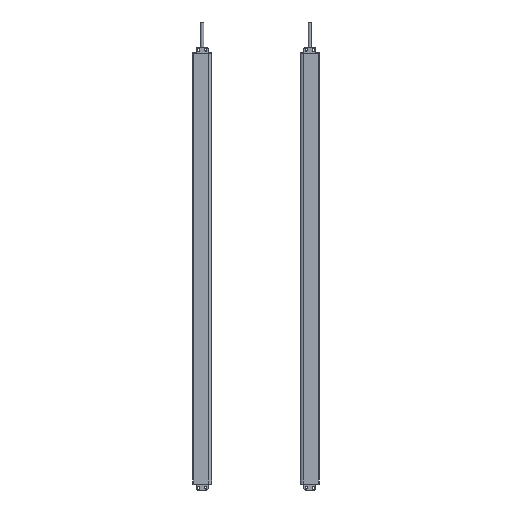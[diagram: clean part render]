
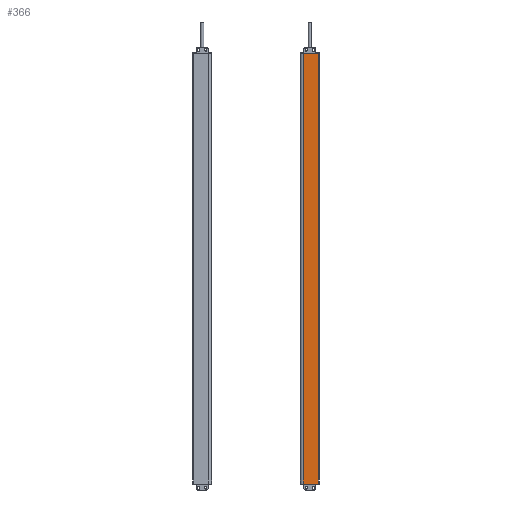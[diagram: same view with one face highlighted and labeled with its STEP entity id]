
A CAD part, front view. The second image highlights one B-rep face of the part: STEP entity #366.
In plain terms, the highlighted planar face has unit normal (0, -1, 0).
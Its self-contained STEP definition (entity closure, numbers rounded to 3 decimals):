
#123=PLANE('',#5869);
#366=ADVANCED_FACE('',(#797),#123,.T.);
#797=FACE_OUTER_BOUND('',#1073,.T.);
#1073=EDGE_LOOP('',(#1780,#1781,#1782,#1783));
#1780=ORIENTED_EDGE('',*,*,#3977,.T.);
#1781=ORIENTED_EDGE('',*,*,#3978,.F.);
#1782=ORIENTED_EDGE('',*,*,#3979,.F.);
#1783=ORIENTED_EDGE('',*,*,#3903,.T.);
#3351=VERTEX_POINT('',#8106);
#3352=VERTEX_POINT('',#8108);
#3421=VERTEX_POINT('',#8253);
#3422=VERTEX_POINT('',#8257);
#3903=EDGE_CURVE('',#3352,#3351,#4726,.T.);
#3977=EDGE_CURVE('',#3351,#3421,#4771,.T.);
#3978=EDGE_CURVE('',#3422,#3421,#4772,.T.);
#3979=EDGE_CURVE('',#3352,#3422,#4773,.T.);
#4726=LINE('',#8107,#5280);
#4771=LINE('',#8254,#5325);
#4772=LINE('',#8256,#5326);
#4773=LINE('',#8258,#5327);
#5280=VECTOR('',#6413,1.);
#5325=VECTOR('',#6522,1.);
#5326=VECTOR('',#6525,1.);
#5327=VECTOR('',#6526,1.);
#5869=AXIS2_PLACEMENT_3D('',#8259,#6527,#6528);
#6413=DIRECTION('',(1.,0.,0.));
#6522=DIRECTION('',(0.,0.,1.));
#6525=DIRECTION('',(1.,0.,0.));
#6526=DIRECTION('',(0.,0.,1.));
#6527=DIRECTION('',(0.,-1.,0.));
#6528=DIRECTION('',(-1.,0.,0.));
#8106=CARTESIAN_POINT('',(3.35,-1.3,-100.));
#8107=CARTESIAN_POINT('',(-21.15,-1.3,-100.));
#8108=CARTESIAN_POINT('',(-21.15,-1.3,-100.));
#8253=CARTESIAN_POINT('',(3.35,-1.3,582.));
#8254=CARTESIAN_POINT('',(3.35,-1.3,-100.));
#8256=CARTESIAN_POINT('',(-4122.897,-1.3,582.));
#8257=CARTESIAN_POINT('',(-21.15,-1.3,582.));
#8258=CARTESIAN_POINT('',(-21.15,-1.3,-100.));
#8259=CARTESIAN_POINT('',(-21.15,-1.3,-100.));
